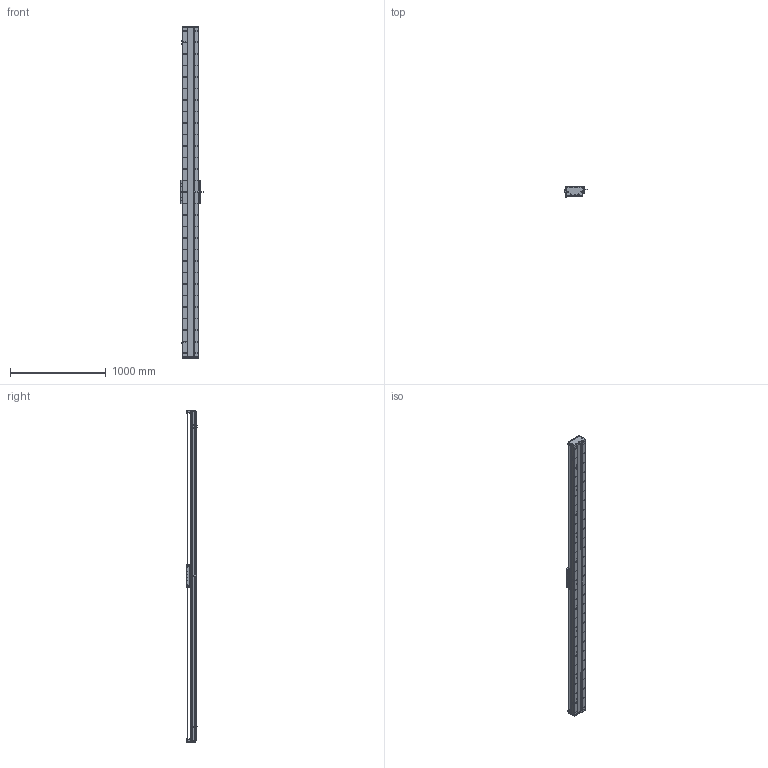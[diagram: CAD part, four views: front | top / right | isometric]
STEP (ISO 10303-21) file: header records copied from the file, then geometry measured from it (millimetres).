
FILE_DESCRIPTION (( 'STEP AP203' ), '1' );
FILE_NAME ('DA-C165-C3-T3120-C010-0.2 直线电机.STEP', '2023-06-13T09:00:15', ( '微软用户' ), ( '微软中国' ), 'SwSTEP 2.0', 'SolidWorks 2019', '' );
FILE_SCHEMA (( 'CONFIG_CONTROL_DESIGN' ));
Length unit declared in the file: millimetre
Products named in the file (18): DA-C165-C3-T3120-C010-0.2 眻盄萇儂; 葩璃 DA95-GT-T-00^IU-CU165-L 菁釱絳寢_T; 复件 DA165-GDYK-00 钢带压块^复件 CU165钢带组件_DA-C165-C3-T-C010-0.2-N 直线电机; 葩璃 PM-T45^DA-C165-C3-T-C010-0.2-N 眻盄萇儂; IU-CU165-L 菁釱絳寢; 复件 DA165-GD-DG-H-00 端盖^复件 CU165钢带组件_DA-C165-C3-T-C010-0.2-N 直线电机; 复件 DA95-HXJ-00 缓冲橡胶^DA-C165-C3-T-C010-0.2-N 直线电机; 复件 DA165-GD-1860-002-00 钢带盖板^复件 CU165钢带组件_DA-C165-C3-T-C010-0.2-N 直线电机; 葩璃 CKM03-W075-C1C2-TP-3.0^DA-C165-C3-T-C010-0.2-N 眻盄萇儂; 复件 DMA-010-0.2 读数头^DA-C165-C3-T-C010-0.2-N 直线电机; 珨极趙賑雄怢啣C3-wf; 复件 DA165-GDLK-00 钢带拉块^复件 CU165钢带组件_DA-C165-C3-T-C010-0.2-N 直线电机; 复件 DA165-GYP-00 光电感应片^DA-C165-C3-T-C010-0.2-N 直线电机; 葩璃 CKM01-W075-TRL^DA-C165-C3-T-C010-0.2-N 眻盄萇儂; 复件 CU165 底座^IU-CU165-L 底座导轨_L3420; 复件 六角薄螺母 M3^DA-C165-C3-T-C010-0.2-N 直线电机_GB_FASTENER_NUT_STNAB M3-C; 复件 CU165钢带组件^DA-C165-C3-T-C010-0.2-N 直线电机; 复件 XD-U-02L 磁栅尺^DA-C165-C3-T-C010-0.2-N 直线电机_T
Assembly tree (35 placements, depth 3):
  DA-C165-C3-T3120-C010-0.2 眻盄萇儂
    IU-CU165-L 菁釱絳寢
      复件 CU165 底座^IU-CU165-L 底座导轨_L3420
      葩璃 DA95-GT-T-00^IU-CU165-L 菁釱絳寢_T  x4
    复件 XD-U-02L 磁栅尺^DA-C165-C3-T-C010-0.2-N 直线电机_T
    葩璃 PM-T45^DA-C165-C3-T-C010-0.2-N 眻盄萇儂  x3
    葩璃 CKM01-W075-TRL^DA-C165-C3-T-C010-0.2-N 眻盄萇儂
    复件 CU165钢带组件^DA-C165-C3-T-C010-0.2-N 直线电机
      复件 DA165-GD-DG-H-00 端盖^复件 CU165钢带组件_DA-C165-C3-T-C010-0.2-N 直线电机  x2
      复件 DA165-GDYK-00 钢带压块^复件 CU165钢带组件_DA-C165-C3-T-C010-0.2-N 直线电机  x2
      复件 DA165-GD-1860-002-00 钢带盖板^复件 CU165钢带组件_DA-C165-C3-T-C010-0.2-N 直线电机
      复件 DA165-GDLK-00 钢带拉块^复件 CU165钢带组件_DA-C165-C3-T-C010-0.2-N 直线电机  x2
    复件 DA95-HXJ-00 缓冲橡胶^DA-C165-C3-T-C010-0.2-N 直线电机  x4
    复件 DA165-GYP-00 光电感应片^DA-C165-C3-T-C010-0.2-N 直线电机
    复件 DMA-010-0.2 读数头^DA-C165-C3-T-C010-0.2-N 直线电机
    葩璃 CKM03-W075-C1C2-TP-3.0^DA-C165-C3-T-C010-0.2-N 眻盄萇儂
    复件 六角薄螺母 M3^DA-C165-C3-T-C010-0.2-N 直线电机_GB_FASTENER_NUT_STNAB M3-C  x8
    珨极趙賑雄怢啣C3-wf
Bounding box: 233 x 111.45 x 3460 mm (x, y, z)
Volume: 19109106.5 mm3; surface area: 5764908.5 mm2
Topology: 72 solids, 122 shells, 4782 faces, 14065 edges, 8950 vertices
Faces by surface type: cylinder 2912, plane 1244, cone 576, torus 46, sphere 4
Entity records: 165001 total; most frequent: CARTESIAN_POINT 46585, ORIENTED_EDGE 24882, DIRECTION 23805, EDGE_CURVE 12441, AXIS2_PLACEMENT_3D 9182, VERTEX_POINT 8138, EDGE_LOOP 5713, LINE 5441
